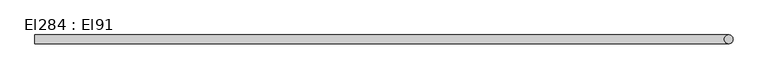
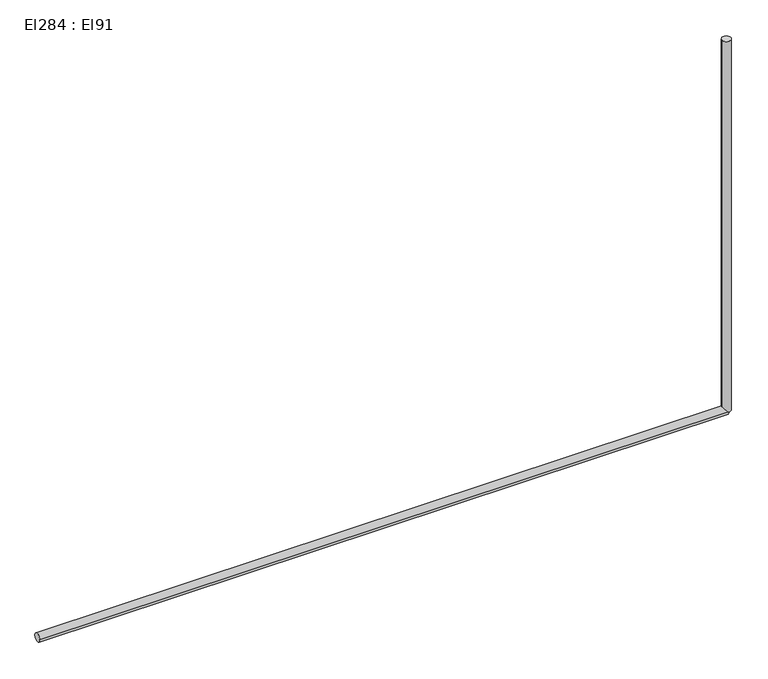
"""IFC4 building model written with IfcOpenShell, lengths in millimetres: cable carrier segment geometry, El284 : El91."""

import ifcopenshell
import ifcopenshell.guid

model = None  # the IFC model being written
_history = None  # IfcOwnerHistory: only IFC2X3 demands one
_inside = {}  # id of a spatial element -> (the spatial element, [elements in it])
_under = {}  # id of a project, library or spatial element -> (it, [spatial elements below it])
_declared = {}  # id of a project -> (the project, [libraries it declares])
_typed = {}  # id of a type object -> (the type object, [elements of that type])
_made_of = {}  # id of a material, layer set ... -> (it, [elements and type objects made of it])


def new_model(schema):
    """Start an empty IFC model of exactly this schema.

    Asked for "IFC4X3", IfcOpenShell would pick the latest addendum, in which some entities
    have other attributes; the version numbers below select the first issue.
    IFC2X3 requires an IfcOwnerHistory on every rooted entity: one is made here for all.
    """
    global model, _history
    if schema == "IFC4X3":
        model = ifcopenshell.file(schema_version=(4, 3, 0, 0))
    else:
        model = ifcopenshell.file(schema=schema)
    _inside.clear()
    _under.clear()
    _declared.clear()
    _typed.clear()
    _made_of.clear()
    _history = None
    if model.schema == "IFC2X3":
        org = make("IfcOrganization", Name="unknown")
        user = make(
            "IfcPersonAndOrganization",
            ThePerson=make("IfcPerson", FamilyName="unknown"),
            TheOrganization=org,
        )
        app = make(
            "IfcApplication",
            ApplicationDeveloper=org,
            Version="unknown",
            ApplicationFullName="unknown",
            ApplicationIdentifier="unknown",
        )
        _history = make(
            "IfcOwnerHistory",
            OwningUser=user,
            OwningApplication=app,
            ChangeAction="ADDED",
            CreationDate=0,
        )
    return model


def make(cls, **values):
    """One entity of the class cls with the attributes given. An attribute that is None is left unset."""
    return model.create_entity(
        cls, **{name: value for name, value in values.items() if value is not None}
    )


def rooted(cls, **values):
    """An entity with a GlobalId (a new one), such as an element, a storey or a relation."""
    return make(cls, GlobalId=ifcopenshell.guid.new(), OwnerHistory=_history, **values)


def si_unit(unit_type, name, prefix=None):
    """IfcSIUnit, for example si_unit("LENGTHUNIT", "METRE", prefix="MILLI")."""
    return make("IfcSIUnit", UnitType=unit_type, Prefix=prefix, Name=name)


def assignment(units):
    """IfcUnitAssignment: the units of a project."""
    return None if units is None else make("IfcUnitAssignment", Units=units)


def point(xyz):
    """IfcCartesianPoint."""
    return None if xyz is None else make("IfcCartesianPoint", Coordinates=xyz)


def direction(xyz):
    """IfcDirection."""
    return None if xyz is None else make("IfcDirection", DirectionRatios=xyz)


def frame(location, z_axis=None, x_axis=None):
    """IfcAxis2Placement3D, a coordinate frame: its origin and axes. An axis left out is left unset."""
    return make(
        "IfcAxis2Placement3D",
        Location=point(location),
        Axis=direction(z_axis),
        RefDirection=direction(x_axis),
    )


def frame_2d(location, x_axis=None):
    """IfcAxis2Placement2D, a coordinate frame in the plane: its origin and x axis."""
    return make(
        "IfcAxis2Placement2D", Location=point(location), RefDirection=direction(x_axis)
    )


def origin():
    """The frame at (0, 0, 0) with its axes left unset."""
    return frame((0.0, 0.0, 0.0))


def place(relative_to, where):
    """IfcLocalPlacement: puts the frame where relative to a parent placement (None: the world)."""
    return make(
        "IfcLocalPlacement", PlacementRelTo=relative_to, RelativePlacement=where
    )


def context(
    kind, dimensions, precision=None, world=None, true_north=None, identifier=None
):
    """IfcGeometricRepresentationContext, for example the 3D "Model" context."""
    return make(
        "IfcGeometricRepresentationContext",
        ContextIdentifier=identifier,
        ContextType=kind,
        CoordinateSpaceDimension=dimensions,
        Precision=precision,
        WorldCoordinateSystem=world,
        TrueNorth=true_north,
    )


def project(units=None, contexts=None):
    """IfcProject with its units and contexts."""
    return rooted(
        "IfcProject",
        Name="project",
        RepresentationContexts=contexts,
        UnitsInContext=assignment(units),
    )


def spatial(cls, under=None, at=None, **own):
    """A site, building, storey or space (cls), placed at a placement, below another one or the project."""
    s = rooted(cls, ObjectPlacement=at, **own)
    if under is not None:
        _under.setdefault(under.id(), (under, []))[1].append(s)
    return s


def circle_curve(where, radius):
    """IfcCircle in the frame where."""
    return make("IfcCircle", Position=where, Radius=radius)


def trimmed(basis, trim1, trim2, sense, master):
    """IfcTrimmedCurve: the piece of a basis curve between two trims."""
    return make(
        "IfcTrimmedCurve",
        BasisCurve=basis,
        Trim1=trim1,
        Trim2=trim2,
        SenseAgreement=sense,
        MasterRepresentation=master,
    )


def segment(curve, same_sense, transition):
    """IfcCompositeCurveSegment."""
    return make(
        "IfcCompositeCurveSegment",
        Transition=transition,
        SameSense=same_sense,
        ParentCurve=curve,
    )


def composite_curve(segments, self_intersect=None):
    """IfcCompositeCurve: segments joined end to end."""
    return make("IfcCompositeCurve", Segments=segments, SelfIntersect=self_intersect)


def outline(outer, holes=None, kind="AREA"):
    """IfcArbitraryClosedProfileDef: a profile drawn as a closed curve; with holes, ...WithVoids."""
    if holes is None:
        return make("IfcArbitraryClosedProfileDef", ProfileType=kind, OuterCurve=outer)
    return make(
        "IfcArbitraryProfileDefWithVoids",
        ProfileType=kind,
        OuterCurve=outer,
        InnerCurves=holes,
    )


def extrude(swept, where, along, depth):
    """IfcExtrudedAreaSolid: the profile swept, set in the frame where, extruded along a direction by depth."""
    return make(
        "IfcExtrudedAreaSolid",
        SweptArea=swept,
        Position=where,
        ExtrudedDirection=direction(along),
        Depth=depth,
    )


def shape(context_of_items, identifier, shape_type, items):
    """IfcShapeRepresentation: the items that make up one representation, for example the "Body"."""
    return make(
        "IfcShapeRepresentation",
        ContextOfItems=context_of_items,
        RepresentationIdentifier=identifier,
        RepresentationType=shape_type,
        Items=items,
    )


def source(mapping_origin, context_of_items, identifier, shape_type, items):
    """IfcRepresentationMap: a shape defined once, which mapped items show again and again."""
    return make(
        "IfcRepresentationMap",
        MappingOrigin=mapping_origin,
        MappedRepresentation=shape(context_of_items, identifier, shape_type, items),
    )


def transform(
    local_origin,
    x_axis=None,
    y_axis=None,
    z_axis=None,
    scale=None,
    scale2=None,
    scale3=None,
    uniform=True,
):
    """IfcCartesianTransformationOperator3D, or its non-uniform kind. x_axis, y_axis, z_axis: its Axis1, 2, 3."""
    if uniform:
        return make(
            "IfcCartesianTransformationOperator3D",
            Axis1=direction(x_axis),
            Axis2=direction(y_axis),
            LocalOrigin=point(local_origin),
            Scale=scale,
            Axis3=direction(z_axis),
        )
    return make(
        "IfcCartesianTransformationOperator3DnonUniform",
        Axis1=direction(x_axis),
        Axis2=direction(y_axis),
        LocalOrigin=point(local_origin),
        Scale=scale,
        Axis3=direction(z_axis),
        Scale2=scale2,
        Scale3=scale3,
    )


def mapped(mapping_source, mapping_target):
    """IfcMappedItem: shows the shape of a source again, moved by a transform."""
    return make(
        "IfcMappedItem", MappingSource=mapping_source, MappingTarget=mapping_target
    )


def made_of(thing, what):
    """Note that an element or type object is made of a material, layer set ...; save() writes the relation."""
    if what is not None:
        _made_of.setdefault(what.id(), (what, []))[1].append(thing)
    return thing


def element(
    cls,
    number,
    at=None,
    inside=None,
    cuts=None,
    type_object=None,
    material=None,
    context=None,
    identifier="Body",
    shape_type=None,
    held_by="IfcProductDefinitionShape",
    body=None,
    shapes=None,
    **own,
):
    """One element of the class cls, such as IfcWall. Its Tag is "e" and its number.

    at: its placement. inside: the storey or other place that contains it. cuts: it is an
    opening in that element (IfcRelVoidsElement). A single representation is given by context,
    identifier, shape_type and body (its items); several are given by shapes. held_by: the class
    of the entity that holds the representations. save() writes the other relations.
    """
    e = rooted(cls, Tag="e%d" % number, ObjectPlacement=at, **own)
    if body is not None:
        shapes = [shape(context, identifier, shape_type, body)]
    if shapes is not None:
        e.Representation = make(held_by, Representations=shapes)
    if inside is not None:
        _inside.setdefault(inside.id(), (inside, []))[1].append(e)
    if cuts is not None:
        rooted(
            "IfcRelVoidsElement", RelatingBuildingElement=cuts, RelatedOpeningElement=e
        )
    if type_object is not None:
        _typed.setdefault(type_object.id(), (type_object, []))[1].append(e)
    return made_of(e, material)


def aggregate(whole, parts):
    """IfcRelAggregates: a whole, such as a stair, and the parts it consists of."""
    return rooted("IfcRelAggregates", RelatingObject=whole, RelatedObjects=parts)


def save(model, path):
    """Write the relations noted so far, then the file.

    IfcRelAggregates (storeys below a building ...), IfcRelContainedInSpatialStructure (elements
    in a storey), IfcRelDefinesByType, IfcRelAssociatesMaterial and IfcRelDeclares: one each for
    every whole, place, type object, material and project.
    """
    for whole, parts in _under.values():
        aggregate(whole, parts)
    for where, things in _inside.values():
        rooted(
            "IfcRelContainedInSpatialStructure",
            RelatedElements=things,
            RelatingStructure=where,
        )
    for kind, things in _typed.values():
        rooted("IfcRelDefinesByType", RelatedObjects=things, RelatingType=kind)
    for what, things in _made_of.values():
        rooted("IfcRelAssociatesMaterial", RelatedObjects=things, RelatingMaterial=what)
    for by, libraries in _declared.values():
        rooted("IfcRelDeclares", RelatingContext=by, RelatedDefinitions=libraries)
    model.write(path)


def el284_el91_26a06fd6(model_context):
    return source(origin(), model_context, "Body", "SweptSolid", [
        extrude(outline(composite_curve([segment(trimmed(circle_curve(frame_2d((24051.0466511, 6766.0121745)), 9.5), [point((24041.5466511, 6766.0121745))], [point((24060.5466511, 6766.0121745))], False, "CARTESIAN"), True, "CONTINUOUS"), segment(trimmed(circle_curve(frame_2d((24051.0466511, 6766.0121745)), 9.5), [point((24060.5466511, 6766.0121745))], [point((24041.5466511, 6766.0121745))], False, "CARTESIAN"), True, "CONTINUOUS")], self_intersect=False)), frame((0.0, 0.0, 1800.0), z_axis=(0.0, 0.0, 1.0), x_axis=(1.0, 0.0, 0.0)), (0.0, 0.0, 1.0), 860.0),
        extrude(outline(composite_curve([segment(trimmed(circle_curve(frame_2d((6766.0121745, 1800.0)), 9.5), [point((6756.5121745, 1800.0))], [point((6775.5121745, 1800.0))], False, "CARTESIAN"), True, "CONTINUOUS"), segment(trimmed(circle_curve(frame_2d((6766.0121745, 1800.0)), 9.5), [point((6775.5121745, 1800.0))], [point((6756.5121745, 1800.0))], False, "CARTESIAN"), True, "CONTINUOUS")], self_intersect=False)), frame((22538.8026511, 0.0, 0.0), z_axis=(1.0, 0.0, 0.0), x_axis=(0.0, 1.0, 0.0)), (0.0, 0.0, 1.0), 1512.24),
    ])


if __name__ == "__main__":
    model = new_model("IFC4")
    model_context = context("Model", 3, world=origin())
    ifc_project = project(units=[si_unit("LENGTHUNIT", "METRE", prefix="MILLI")], contexts=[model_context])
    site = spatial("IfcSite", under=ifc_project)
    building = spatial("IfcBuilding", under=site)
    placement = place(None, origin())
    el284_el91_shape = el284_el91_26a06fd6(model_context)
    element("IfcCableCarrierSegment", 1, ObjectType="El284 : El91", at=placement, inside=building, context=model_context, shape_type="MappedRepresentation", body=[
        mapped(el284_el91_shape, transform((0.0, 0.0, 0.0), x_axis=(1.0, 0.0, 0.0), y_axis=(0.0, 1.0, 0.0), z_axis=(0.0, 0.0, 1.0))),
    ])
    save(model, "model.ifc")
